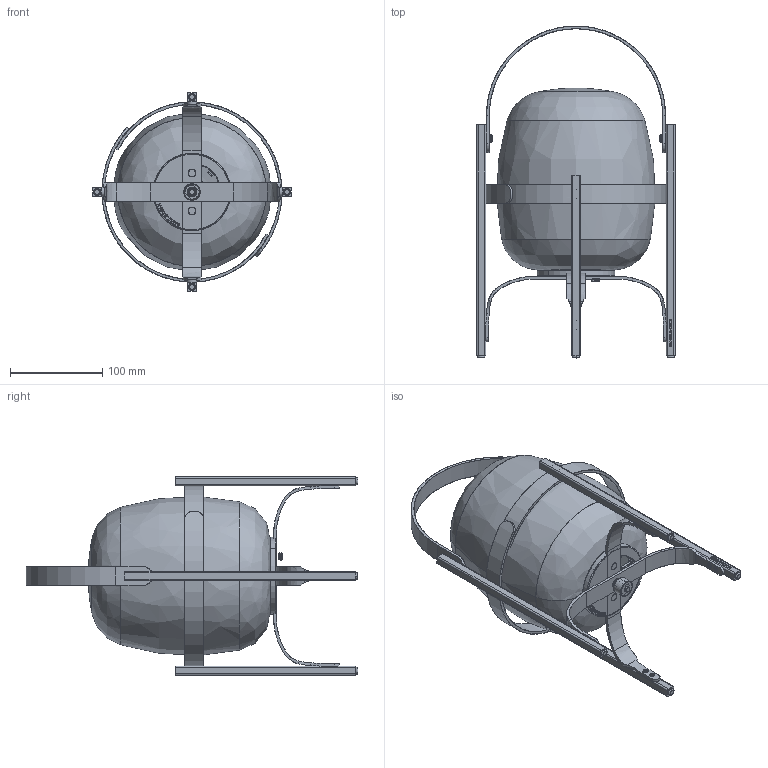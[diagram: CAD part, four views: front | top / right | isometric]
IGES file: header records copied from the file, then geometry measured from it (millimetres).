
Start section: SolidWorks IGES file using analytic representation for surfaces
Global section: file name: C:\SANTACOLE_PDM\Proyectos Catálogo\PROD-P16-014 -- CESTITA BATERIA\6_Técnico comercial\3D\Alubat.IGS; native system: SolidWorks 2019; preprocessor: SolidWorks 2019; author: ana.pascual; date: 200521.103157; units: millimetre
Bounding box: 215 x 359.3 x 215 mm (x, y, z)
Surface area: 364243.5 mm2 (no closed solid volume)
Topology: 0 solids, 0 shells, 2104 faces, 19818 edges, 19760 vertices
Faces by surface type: bspline 1438, revolution 666
